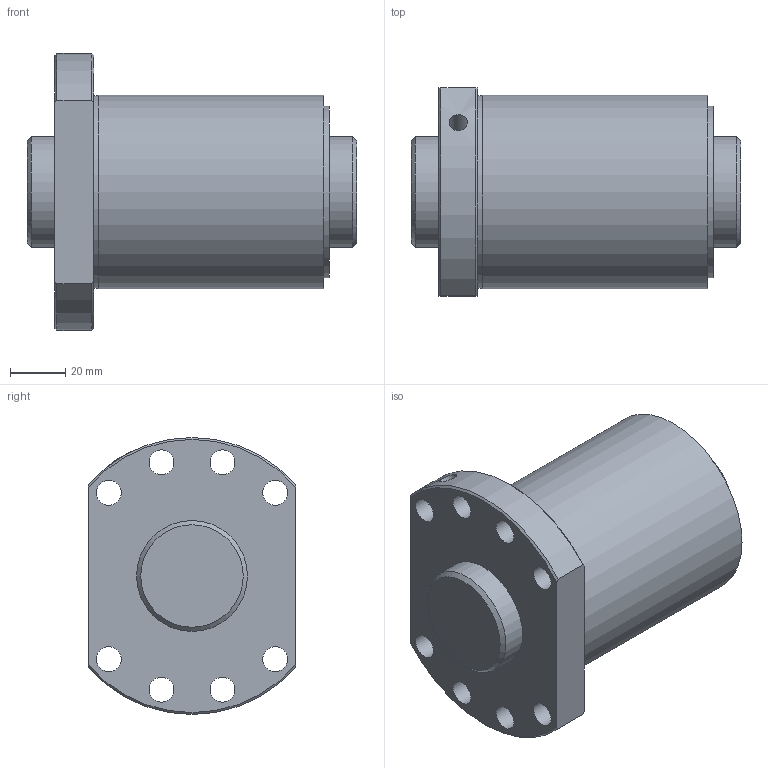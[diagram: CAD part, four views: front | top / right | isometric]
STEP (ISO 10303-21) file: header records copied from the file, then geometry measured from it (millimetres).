
FILE_DESCRIPTION(/* description */ ('STEP AP203'),/* implementation_level */ '2;1');
FILE_NAME(/* name */ 'SDA4030VA-6G0+119LC0(0G000)',/* time_stamp */ '2024-05-28T11:43:01+02:00',/* author */ ('License CC BY-ND 4.0'),/* organization */ ('CADENAS'),/* preprocessor_version */ 'ST-DEVELOPER v19.3',/* originating_system */ 'PARTsolutions',/* authorisation */ ' ');
FILE_SCHEMA (('CONFIG_CONTROL_DESIGN'));
Length unit declared in the file: millimetre
Products named in the file (3): SDA4030VA-6G0+119LC0(0G000); 000SDA4030VA-60Shaft; SDA-V serieSDA4030VA-6nut
Assembly tree (2 placements, depth 2):
  SDA4030VA-6G0+119LC0(0G000)
    000SDA4030VA-60Shaft
    SDA-V serieSDA4030VA-6nut
Bounding box: 119 x 75 x 100 mm (x, y, z)
Volume: 436215.3 mm3; surface area: 66104.8 mm2
Topology: 2 solids, 2 shells, 33 faces, 75 edges, 49 vertices
Faces by surface type: cylinder 17, plane 9, cone 7
Full cylindrical faces by diameter (mm): 5.2 x1, 6.647 x1, 9 x8, 40 x2, 62 x1, 69.6 x1, 70 x1
Entity records: 983 total; most frequent: CARTESIAN_POINT 184, DIRECTION 156, ORIENTED_EDGE 112, EDGE_LOOP 74, FACE_BOUND 74, AXIS2_PLACEMENT_3D 74, EDGE_CURVE 56, VERTEX_POINT 48
